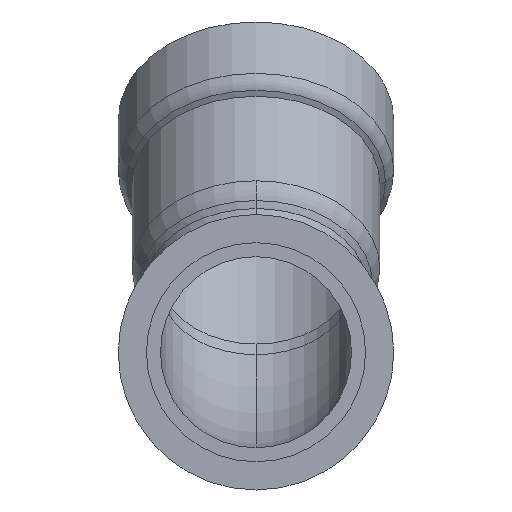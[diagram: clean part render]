
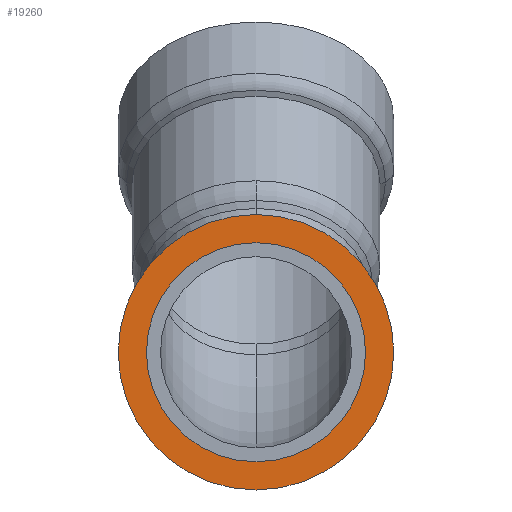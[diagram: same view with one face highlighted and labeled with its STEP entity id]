
A CAD part, front view. The second image highlights one B-rep face of the part: STEP entity #19260.
In plain terms, the highlighted planar face has unit normal (0, -1, 0).
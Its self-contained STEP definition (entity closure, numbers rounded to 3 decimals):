
#16230=CARTESIAN_POINT('',(-15.531,-103.396,
-8.364));
#16240=VERTEX_POINT('',#16230);
#16290=CARTESIAN_POINT('',(-40.181,-103.396,
-8.364));
#16300=DIRECTION('',(0.,1.,0.));
#16310=DIRECTION('',(-1.,0.,0.));
#16320=AXIS2_PLACEMENT_3D('',#16290,#16300,#16310);
#16330=CIRCLE('',#16320,24.65);
#16340=CARTESIAN_POINT('',(-64.831,-103.396,
-8.364));
#16350=VERTEX_POINT('',#16340);
#16360=EDGE_CURVE('',#16240,#16350,#16330,.T.);
#18880=CARTESIAN_POINT('',(-71.181,-103.396,
-8.364));
#18890=VERTEX_POINT('',#18880);
#18970=CARTESIAN_POINT('',(-9.181,-103.396,
-8.364));
#18980=VERTEX_POINT('',#18970);
#19010=CARTESIAN_POINT('',(-40.181,-103.396,
-8.364));
#19020=DIRECTION('',(0.,1.,0.));
#19030=DIRECTION('',(1.,0.,0.));
#19040=AXIS2_PLACEMENT_3D('',#19010,#19020,#19030);
#19050=CIRCLE('',#19040,31.);
#19060=EDGE_CURVE('',#18890,#18980,#19050,.T.);
#19110=CARTESIAN_POINT('',(-69.481,-103.396,
-8.364));
#19120=DIRECTION('',(0.,1.,0.));
#19130=DIRECTION('',(-1.,0.,0.));
#19140=AXIS2_PLACEMENT_3D('',#19110,#19120,#19130);
#19150=PLANE('',#19140);
#19160=EDGE_CURVE('',#16350,#16240,#16330,.T.);
#19170=ORIENTED_EDGE('',*,*,#19160,.T.);
#19180=ORIENTED_EDGE('',*,*,#16360,.T.);
#19190=EDGE_LOOP('',(#19180,#19170));
#19200=FACE_BOUND('',#19190,.T.);
#19210=EDGE_CURVE('',#18980,#18890,#19050,.T.);
#19220=ORIENTED_EDGE('',*,*,#19210,.F.);
#19230=ORIENTED_EDGE('',*,*,#19060,.F.);
#19240=EDGE_LOOP('',(#19230,#19220));
#19250=FACE_OUTER_BOUND('',#19240,.T.);
#19260=ADVANCED_FACE('',(#19200,#19250),#19150,.F.);
